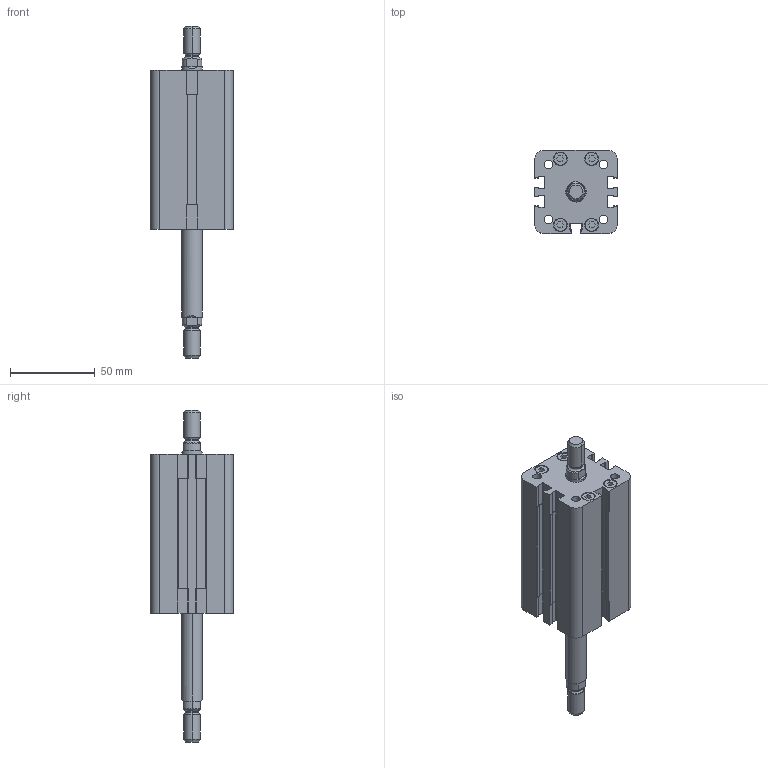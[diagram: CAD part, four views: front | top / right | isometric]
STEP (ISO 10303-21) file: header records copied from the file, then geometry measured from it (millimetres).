
FILE_DESCRIPTION (( 'STEP AP203' ), '1' );
FILE_NAME ('WJM0320050A.step', '2013-04-22T07:00:03', ( '' ), ( '' ), 'SwSTEP 2.0', 'SolidWorks 2012', '' );
FILE_SCHEMA (( 'CONFIG_CONTROL_DESIGN' ));
Length unit declared in the file: millimetre
Products named in the file (1): WJM0320050A
Bounding box: 49 x 49 x 196 mm (x, y, z)
Volume: 206376.6 mm3; surface area: 40396.3 mm2
Topology: 1 solids, 1 shells, 441 faces, 1196 edges, 785 vertices
Faces by surface type: plane 216, cylinder 191, cone 26, torus 8
Entity records: 14154 total; most frequent: CARTESIAN_POINT 2631, DIRECTION 2453, ORIENTED_EDGE 2392, EDGE_CURVE 1196, AXIS2_PLACEMENT_3D 855, VERTEX_POINT 785, VECTOR 743, LINE 743
